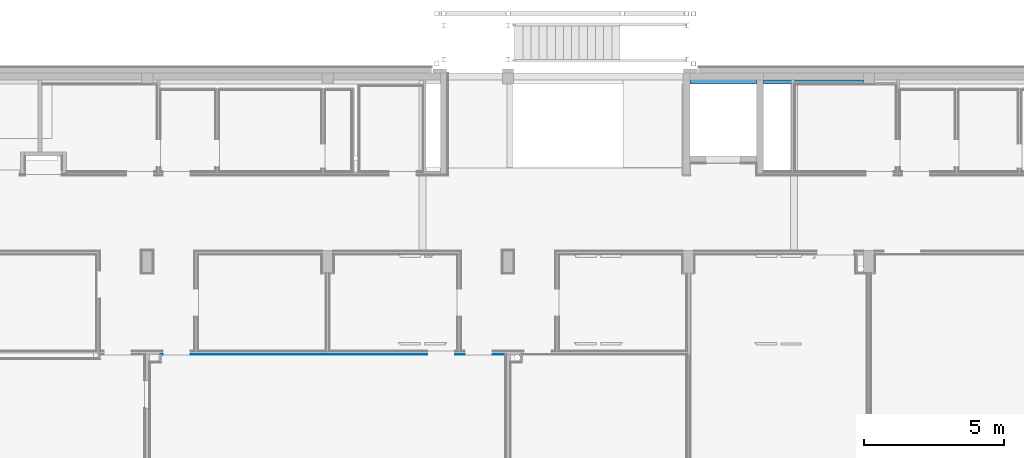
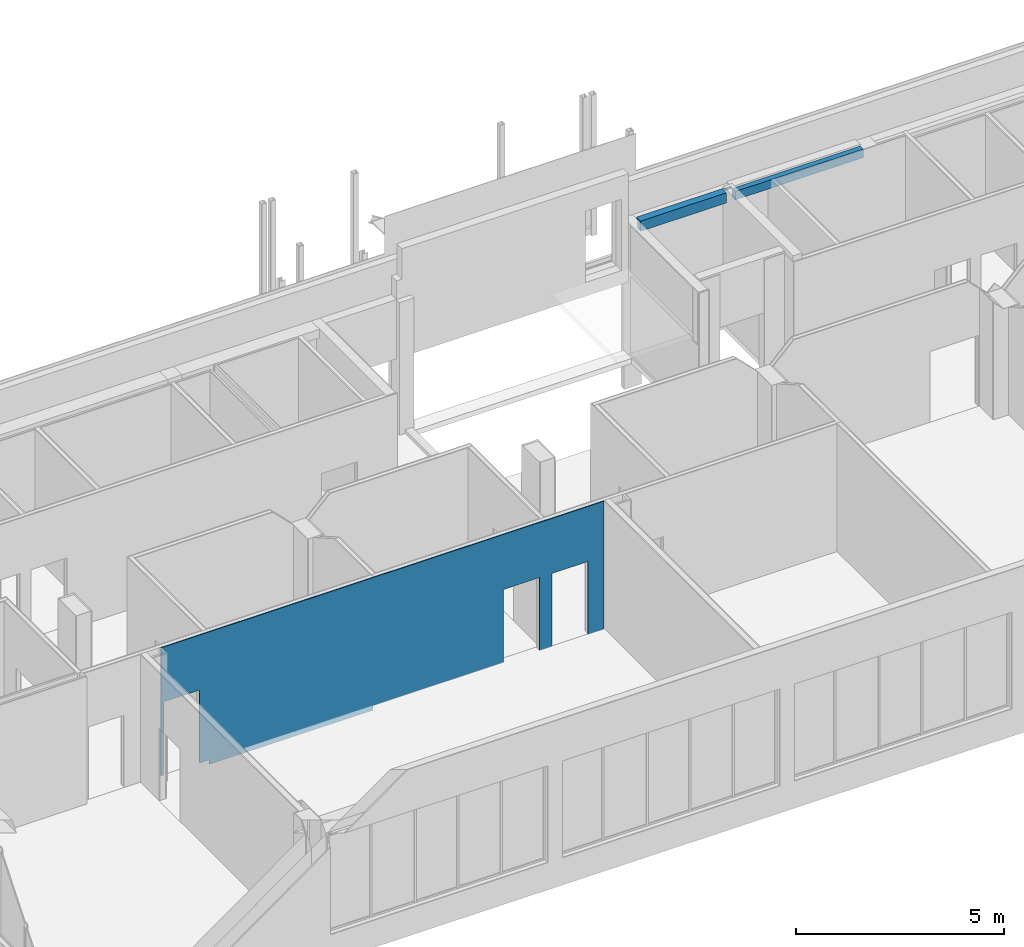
# One storey, part 28 of 29: 1 beam, 1 wall.
"""IFC2X3 building model written with IfcOpenShell, lengths in centimetres."""

import ifcopenshell
import ifcopenshell.guid

model = None  # the IFC model being written
_history = None  # IfcOwnerHistory: only IFC2X3 demands one
_inside = {}  # id of a spatial element -> (the spatial element, [elements in it])
_under = {}  # id of a project, library or spatial element -> (it, [spatial elements below it])
_declared = {}  # id of a project -> (the project, [libraries it declares])
_typed = {}  # id of a type object -> (the type object, [elements of that type])
_made_of = {}  # id of a material, layer set ... -> (it, [elements and type objects made of it])


def new_model(schema):
    """Start an empty IFC model of exactly this schema.

    Asked for "IFC4X3", IfcOpenShell would pick the latest addendum, in which some entities
    have other attributes; the version numbers below select the first issue.
    IFC2X3 requires an IfcOwnerHistory on every rooted entity: one is made here for all.
    """
    global model, _history
    if schema == "IFC4X3":
        model = ifcopenshell.file(schema_version=(4, 3, 0, 0))
    else:
        model = ifcopenshell.file(schema=schema)
    _inside.clear()
    _under.clear()
    _declared.clear()
    _typed.clear()
    _made_of.clear()
    _history = None
    if model.schema == "IFC2X3":
        org = make("IfcOrganization", Name="unknown")
        user = make(
            "IfcPersonAndOrganization",
            ThePerson=make("IfcPerson", FamilyName="unknown"),
            TheOrganization=org,
        )
        app = make(
            "IfcApplication",
            ApplicationDeveloper=org,
            Version="unknown",
            ApplicationFullName="unknown",
            ApplicationIdentifier="unknown",
        )
        _history = make(
            "IfcOwnerHistory",
            OwningUser=user,
            OwningApplication=app,
            ChangeAction="ADDED",
            CreationDate=0,
        )
    return model


def make(cls, **values):
    """One entity of the class cls with the attributes given. An attribute that is None is left unset."""
    return model.create_entity(
        cls, **{name: value for name, value in values.items() if value is not None}
    )


def entity(cls, *values):
    """Any entity or typed value of the class cls, its attributes in the order of the schema. None: left unset."""
    e = model.create_entity(cls)
    for i, value in enumerate(values):
        if value is not None:
            e[i] = value
    return e


def rooted(cls, **values):
    """An entity with a GlobalId (a new one), such as an element, a storey or a relation."""
    return make(cls, GlobalId=ifcopenshell.guid.new(), OwnerHistory=_history, **values)


def si_unit(unit_type, name, prefix=None):
    """IfcSIUnit, for example si_unit("LENGTHUNIT", "METRE", prefix="MILLI")."""
    return make("IfcSIUnit", UnitType=unit_type, Prefix=prefix, Name=name)


def converted_unit(unit_type, name, factor, base, dimensions=None, offset=None):
    """IfcConversionBasedUnit, such as the inch: factor (a typed value) times the base unit."""
    return make(
        "IfcConversionBasedUnit"
        if offset is None
        else "IfcConversionBasedUnitWithOffset",
        ConversionOffset=offset,
        Dimensions=None
        if dimensions is None
        else entity("IfcDimensionalExponents", *dimensions),
        UnitType=unit_type,
        Name=name,
        ConversionFactor=make(
            "IfcMeasureWithUnit", ValueComponent=factor, UnitComponent=base
        ),
    )


def derived_unit(unit_type, elements):
    """IfcDerivedUnit: a product of units, each with its exponent."""
    return make(
        "IfcDerivedUnit",
        Elements=[
            make("IfcDerivedUnitElement", Unit=unit, Exponent=power)
            for unit, power in elements
        ],
        UnitType=unit_type,
    )


def assignment(units):
    """IfcUnitAssignment: the units of a project."""
    return None if units is None else make("IfcUnitAssignment", Units=units)


def point(xyz):
    """IfcCartesianPoint."""
    return None if xyz is None else make("IfcCartesianPoint", Coordinates=xyz)


def direction(xyz):
    """IfcDirection."""
    return None if xyz is None else make("IfcDirection", DirectionRatios=xyz)


def frame(location, z_axis=None, x_axis=None):
    """IfcAxis2Placement3D, a coordinate frame: its origin and axes. An axis left out is left unset."""
    return make(
        "IfcAxis2Placement3D",
        Location=point(location),
        Axis=direction(z_axis),
        RefDirection=direction(x_axis),
    )


def origin():
    """The frame at (0, 0, 0) with its axes left unset."""
    return frame((0.0, 0.0, 0.0))


def place(relative_to, where):
    """IfcLocalPlacement: puts the frame where relative to a parent placement (None: the world)."""
    return make(
        "IfcLocalPlacement", PlacementRelTo=relative_to, RelativePlacement=where
    )


def context(
    kind, dimensions, precision=None, world=None, true_north=None, identifier=None
):
    """IfcGeometricRepresentationContext, for example the 3D "Model" context."""
    return make(
        "IfcGeometricRepresentationContext",
        ContextIdentifier=identifier,
        ContextType=kind,
        CoordinateSpaceDimension=dimensions,
        Precision=precision,
        WorldCoordinateSystem=world,
        TrueNorth=true_north,
    )


def subcontext(parent, identifier, kind, view, scale=None):
    """IfcGeometricRepresentationSubContext, for example "Body" below "Model"."""
    return make(
        "IfcGeometricRepresentationSubContext",
        ContextIdentifier=identifier,
        ContextType=kind,
        ParentContext=parent,
        TargetScale=scale,
        TargetView=view,
    )


def project(units=None, contexts=None):
    """IfcProject with its units and contexts."""
    return rooted(
        "IfcProject",
        Name="project",
        RepresentationContexts=contexts,
        UnitsInContext=assignment(units),
    )


def spatial(cls, under=None, at=None, **own):
    """A site, building, storey or space (cls), placed at a placement, below another one or the project."""
    s = rooted(cls, ObjectPlacement=at, **own)
    if under is not None:
        _under.setdefault(under.id(), (under, []))[1].append(s)
    return s


def faces_of(points, faces, orient=None, outer=None):
    """IfcFace entities. A face is a list of loops; a loop is a list of indices into points, from 0.

    orient and outer hold one flag for each loop. By default every Orientation is true, the
    first loop of a face is its IfcFaceOuterBound and the others are IfcFaceBound.
    """
    made = []
    for i, loops in enumerate(faces):
        bounds = []
        for j, loop in enumerate(loops):
            is_outer = j == 0 if outer is None else outer[i][j]
            bounds.append(
                make(
                    "IfcFaceOuterBound" if is_outer else "IfcFaceBound",
                    Bound=make("IfcPolyLoop", Polygon=[points[k] for k in loop]),
                    Orientation=True if orient is None else orient[i][j],
                )
            )
        made.append(make("IfcFace", Bounds=bounds))
    return made


def faceted_brep(points, faces, orient=None, outer=None, voids=None):
    """IfcFacetedBrep: a solid bounded by flat faces; with voids (closed shells), ...WithVoids."""
    shared = [point(p) for p in points]
    hull = make("IfcClosedShell", CfsFaces=faces_of(shared, faces, orient, outer))
    if voids is None:
        return make("IfcFacetedBrep", Outer=hull)
    return make(
        "IfcFacetedBrepWithVoids",
        Outer=hull,
        Voids=[
            make(cls, CfsFaces=faces_of(shared, fs, o, b)) for cls, fs, o, b in voids
        ],
    )


def shape(context_of_items, identifier, shape_type, items):
    """IfcShapeRepresentation: the items that make up one representation, for example the "Body"."""
    return make(
        "IfcShapeRepresentation",
        ContextOfItems=context_of_items,
        RepresentationIdentifier=identifier,
        RepresentationType=shape_type,
        Items=items,
    )


def source(mapping_origin, context_of_items, identifier, shape_type, items):
    """IfcRepresentationMap: a shape defined once, which mapped items show again and again."""
    return make(
        "IfcRepresentationMap",
        MappingOrigin=mapping_origin,
        MappedRepresentation=shape(context_of_items, identifier, shape_type, items),
    )


def transform(
    local_origin,
    x_axis=None,
    y_axis=None,
    z_axis=None,
    scale=None,
    scale2=None,
    scale3=None,
    uniform=True,
):
    """IfcCartesianTransformationOperator3D, or its non-uniform kind. x_axis, y_axis, z_axis: its Axis1, 2, 3."""
    if uniform:
        return make(
            "IfcCartesianTransformationOperator3D",
            Axis1=direction(x_axis),
            Axis2=direction(y_axis),
            LocalOrigin=point(local_origin),
            Scale=scale,
            Axis3=direction(z_axis),
        )
    return make(
        "IfcCartesianTransformationOperator3DnonUniform",
        Axis1=direction(x_axis),
        Axis2=direction(y_axis),
        LocalOrigin=point(local_origin),
        Scale=scale,
        Axis3=direction(z_axis),
        Scale2=scale2,
        Scale3=scale3,
    )


def mapped(mapping_source, mapping_target):
    """IfcMappedItem: shows the shape of a source again, moved by a transform."""
    return make(
        "IfcMappedItem", MappingSource=mapping_source, MappingTarget=mapping_target
    )


def material(Name=None, Category=None):
    """IfcMaterial."""
    return make("IfcMaterial", Name=Name, Category=Category)


def layer(
    of_material, thickness, ventilated=None, Name=None, Category=None, Priority=None
):
    """IfcMaterialLayer: one layer of a wall or slab, of a material (None: an air gap)."""
    return make(
        "IfcMaterialLayer",
        Material=of_material,
        LayerThickness=thickness,
        IsVentilated=ventilated,
        Name=Name,
        Category=Category,
        Priority=Priority,
    )


def layer_set(layers, Name=None):
    """IfcMaterialLayerSet."""
    return make("IfcMaterialLayerSet", MaterialLayers=layers, LayerSetName=Name)


def made_of(thing, what):
    """Note that an element or type object is made of a material, layer set ...; save() writes the relation."""
    if what is not None:
        _made_of.setdefault(what.id(), (what, []))[1].append(thing)
    return thing


def type_object(cls, material=None, **own):
    """A type object (cls), such as IfcWallType, which elements share."""
    return made_of(rooted(cls, **own), material)


def type_shapes(of_type, sources):
    """Give a type object the sources (RepresentationMaps) that its elements show as mapped items."""
    of_type.RepresentationMaps = sources


def element(
    cls,
    number,
    at=None,
    inside=None,
    cuts=None,
    type_object=None,
    material=None,
    context=None,
    identifier="Body",
    shape_type=None,
    held_by="IfcProductDefinitionShape",
    body=None,
    shapes=None,
    **own,
):
    """One element of the class cls, such as IfcWall. Its Tag is "e" and its number.

    at: its placement. inside: the storey or other place that contains it. cuts: it is an
    opening in that element (IfcRelVoidsElement). A single representation is given by context,
    identifier, shape_type and body (its items); several are given by shapes. held_by: the class
    of the entity that holds the representations. save() writes the other relations.
    """
    e = rooted(cls, Tag="e%d" % number, ObjectPlacement=at, **own)
    if body is not None:
        shapes = [shape(context, identifier, shape_type, body)]
    if shapes is not None:
        e.Representation = make(held_by, Representations=shapes)
    if inside is not None:
        _inside.setdefault(inside.id(), (inside, []))[1].append(e)
    if cuts is not None:
        rooted(
            "IfcRelVoidsElement", RelatingBuildingElement=cuts, RelatedOpeningElement=e
        )
    if type_object is not None:
        _typed.setdefault(type_object.id(), (type_object, []))[1].append(e)
    return made_of(e, material)


def aggregate(whole, parts):
    """IfcRelAggregates: a whole, such as a stair, and the parts it consists of."""
    return rooted("IfcRelAggregates", RelatingObject=whole, RelatedObjects=parts)


def save(model, path):
    """Write the relations noted so far, then the file.

    IfcRelAggregates (storeys below a building ...), IfcRelContainedInSpatialStructure (elements
    in a storey), IfcRelDefinesByType, IfcRelAssociatesMaterial and IfcRelDeclares: one each for
    every whole, place, type object, material and project.
    """
    for whole, parts in _under.values():
        aggregate(whole, parts)
    for where, things in _inside.values():
        rooted(
            "IfcRelContainedInSpatialStructure",
            RelatedElements=things,
            RelatingStructure=where,
        )
    for kind, things in _typed.values():
        rooted("IfcRelDefinesByType", RelatedObjects=things, RelatingType=kind)
    for what, things in _made_of.values():
        rooted("IfcRelAssociatesMaterial", RelatedObjects=things, RelatingMaterial=what)
    for by, libraries in _declared.values():
        rooted("IfcRelDeclares", RelatingContext=by, RelatedDefinitions=libraries)
    model.write(path)


model = new_model("IFC2X3")

# Units and contexts
model_context = context("Model", 3, precision=0.001, world=origin(), true_north=direction((6.12303176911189e-17, 1.0)))
body_context = subcontext(model_context, "Body", "Model", "MODEL_VIEW")
ifc_project = project(units=[si_unit("LENGTHUNIT", "METRE", prefix="CENTI"), si_unit("AREAUNIT", "SQUARE_METRE"), si_unit("VOLUMEUNIT", "CUBIC_METRE"), converted_unit("PLANEANGLEUNIT", "DEGREE", entity("IfcRatioMeasure", 0.0174532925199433), si_unit("PLANEANGLEUNIT", "RADIAN"), dimensions=[0, 0, 0, 0, 0, 0, 0]), si_unit("MASSUNIT", "GRAM", prefix="KILO"), derived_unit("MASSDENSITYUNIT", [(si_unit("MASSUNIT", "GRAM", prefix="KILO"), 1), (si_unit("LENGTHUNIT", "METRE"), -3)]), derived_unit("MOMENTOFINERTIAUNIT", [(si_unit("LENGTHUNIT", "METRE"), 4)]), si_unit("TIMEUNIT", "SECOND"), si_unit("FREQUENCYUNIT", "HERTZ"), si_unit("THERMODYNAMICTEMPERATUREUNIT", "DEGREE_CELSIUS"), derived_unit("THERMALTRANSMITTANCEUNIT", [(si_unit("MASSUNIT", "GRAM", prefix="KILO"), 1), (si_unit("THERMODYNAMICTEMPERATUREUNIT", "KELVIN"), -1), (si_unit("TIMEUNIT", "SECOND"), -3)]), derived_unit("VOLUMETRICFLOWRATEUNIT", [(si_unit("LENGTHUNIT", "METRE"), 3), (si_unit("TIMEUNIT", "SECOND"), -1)]), si_unit("ELECTRICCURRENTUNIT", "AMPERE"), si_unit("ELECTRICVOLTAGEUNIT", "VOLT"), si_unit("POWERUNIT", "WATT"), si_unit("FORCEUNIT", "NEWTON", prefix="KILO"), si_unit("ILLUMINANCEUNIT", "LUX"), si_unit("LUMINOUSFLUXUNIT", "LUMEN"), si_unit("LUMINOUSINTENSITYUNIT", "CANDELA"), derived_unit("USERDEFINED", [(si_unit("MASSUNIT", "GRAM", prefix="KILO"), -1), (si_unit("LENGTHUNIT", "METRE"), -2), (si_unit("TIMEUNIT", "SECOND"), 3), (si_unit("LUMINOUSFLUXUNIT", "LUMEN"), 1)]), derived_unit("LINEARVELOCITYUNIT", [(si_unit("LENGTHUNIT", "METRE"), 1), (si_unit("TIMEUNIT", "SECOND"), -1)]), si_unit("PRESSUREUNIT", "PASCAL"), derived_unit("USERDEFINED", [(si_unit("LENGTHUNIT", "METRE"), -2), (si_unit("MASSUNIT", "GRAM", prefix="KILO"), 1), (si_unit("TIMEUNIT", "SECOND"), -2)]), derived_unit("LINEARFORCEUNIT", [(si_unit("MASSUNIT", "GRAM", prefix="KILO"), 1), (si_unit("LENGTHUNIT", "METRE"), 1), (si_unit("TIMEUNIT", "SECOND"), -2), (si_unit("LENGTHUNIT", "METRE"), -1)]), derived_unit("PLANARFORCEUNIT", [(si_unit("MASSUNIT", "GRAM", prefix="KILO"), 1), (si_unit("LENGTHUNIT", "METRE"), 1), (si_unit("TIMEUNIT", "SECOND"), -2), (si_unit("LENGTHUNIT", "METRE"), -2)])], contexts=[model_context])

# Site, building, storey
site_placement = place(None, origin())
site = spatial("IfcSite", under=ifc_project, at=site_placement, Name="Default", CompositionType="ELEMENT")
building_placement = place(site_placement, origin())
building = spatial("IfcBuilding", under=site, at=building_placement, CompositionType="ELEMENT")
storey_placement = place(building_placement, frame((0.0, 0.0, 545.0)))
storey = spatial("IfcBuildingStorey", under=building, at=storey_placement, Name="Poziom 1K +5,45", CompositionType="ELEMENT", Elevation=544.999999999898)

# Beam
ifc_material_1 = material(Name="_Beton C30/37")
beam_type = type_object("IfcBeamType", Name="Beton-belka prostokątna:BELKA 40x30", PredefinedType="BEAM", material=ifc_material_1)
shared_shape = source(origin(), body_context, "Body", "Brep", [
    faceted_brep([(263.500005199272, 20.0, 30.0), (0.0, 20.0, 30.0), (0.0, 0.0, 30.0), (238.500005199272, 0.0, 30.0), (238.500005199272, 14.9999995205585, 30.0), (263.500005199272, 14.9999995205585, 30.0), (7.65330258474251e-06, 0.0, 0.0), (238.500005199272, 0.0, 0.0), (238.500005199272, 15.0, 0.0), (238.500005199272, 14.9999995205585, 25.0), (0.0, 15.0, 0.0), (7.65330258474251e-06, 15.0, 25.0), (238.500005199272, 15.0, 25.0), (0.0, 20.0, 25.0), (263.500005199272, 20.0, 25.0), (263.500005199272, 14.9999995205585, 25.0), (0.0, 15.0, 25.0), (7.65330258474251e-06, 15.0, 0.0), (238.500005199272, 14.9999995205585, 0.0)], [[[0, 1, 2, 3, 4, 5]], [[6, 7, 3, 2]], [[3, 7, 8, 9, 4]], [[10, 11, 12, 8]], [[13, 14, 15, 12, 16]], [[13, 1, 0, 14]], [[1, 13, 16, 17, 6, 2]], [[14, 0, 5, 15]], [[5, 4, 9, 15]], [[7, 6, 17, 18]]]),
    faceted_brep([(620.000010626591, 0.0, 0.0), (263.500005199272, 0.0, 0.0), (263.500005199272, 15.0, 0.0), (620.000010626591, 15.0, 0.0), (263.500005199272, 14.9999995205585, 25.0), (263.500005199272, 0.0, 25.0), (620.000010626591, 0.0, 25.0), (620.000010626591, 15.0, 25.0), (263.500005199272, 15.0, 25.0)], [[[0, 1, 2, 3]], [[4, 5, 6, 7]], [[5, 8, 2, 1]], [[1, 0, 6, 5]], [[6, 0, 3, 7]], [[3, 2, 8, 7]]]),
])
type_shapes(beam_type, [shared_shape])
beam_placement = place(storey_placement, frame((-329.265119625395, 2065.127452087, 365.0)))
element("IfcBeam", 1, at=beam_placement, inside=storey, type_object=beam_type, material=ifc_material_1, Name="Beton-belka prostokątna:BELKA 40x30", ObjectType="Beton-belka prostokątna:BELKA 40x30", context=body_context, shape_type="MappedRepresentation", body=[
    mapped(shared_shape, transform((0.0, 0.0, 0.0), scale=1.0)),
])

# Wall
ifc_material_2 = material(Name="Tynk gipsowy")
ifc_layer = layer(ifc_material_2, 2.5)
ifc_layer_set = layer_set([ifc_layer], Name="Ściana podstawowa:Ściana GK wykonczenie gr. 2,5cm")
wall_type = type_object("IfcWallType", Name="Ściana podstawowa:Ściana GK wykonczenie gr. 2,5cm", PredefinedType="STANDARD", material=ifc_layer_set)
wall_placement = place(storey_placement, frame((-2221.7651151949, 1098.37745216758, 0.0)))
element("IfcWall", 2, at=wall_placement, inside=storey, type_object=wall_type, Name="Ściana podstawowa:Ściana GK wykonczenie gr. 2,5cm", ObjectType="Ściana podstawowa:Ściana GK wykonczenie gr. 2,5cm", context=body_context, shape_type="Brep", body=[
    faceted_brep([(1232.50000619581, -1.25000000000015, 390.0), (2.49999999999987, -1.25000000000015, 390.0), (0.0, -1.25000000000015, 390.0), (0.0, -1.25000000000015, 13.0), (7.49999999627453, -1.25000000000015, 13.0), (7.49999999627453, -1.25000000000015, 15.0), (7.49999999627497, -1.25000000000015, 228.0), (107.499999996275, -1.25000000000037, 228.0), (107.499999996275, -1.25000000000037, 15.0), (107.499999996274, -1.25000000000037, 13.0), (135.0, -1.25000000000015, 13.0), (135.0, -1.25000000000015, 7.0), (135.0, -1.25000000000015, 0.0), (589.999994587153, -1.25000000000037, 0.0), (589.999994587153, -1.25000000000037, 7.0), (589.999994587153, -1.25000000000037, 13.0), (952.499989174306, -1.25000000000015, 13.0), (952.499989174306, -1.25000000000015, 228.0), (1052.49998917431, -1.25000000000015, 228.0), (1052.49998917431, -1.25000000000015, 13.0), (1087.50000353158, -1.25000000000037, 13.0), (1087.50000353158, -1.25000000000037, 15.0), (1087.50000353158, -1.25000000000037, 228.0), (1187.50000353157, -1.25000000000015, 228.0), (1187.50000353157, -1.25000000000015, 15.0), (1187.50000353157, -1.25000000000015, 13.0), (1232.50000619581, -1.25000000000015, 13.0), (0.0, 1.24999999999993, 390.0), (592.499994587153, 1.24999999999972, 390.0), (1232.50000619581, 1.24999999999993, 390.0), (1232.50000619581, 1.24999999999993, 13.0), (1187.50000353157, 1.24999999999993, 13.0), (1187.50000353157, 1.24999999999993, 15.0), (1187.50000353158, 1.24999999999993, 228.0), (1087.50000353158, 1.24999999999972, 228.0), (1087.50000353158, 1.24999999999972, 15.0), (1087.50000353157, 1.24999999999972, 13.0), (1052.49998917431, 1.24999999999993, 13.0), (1052.49998917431, 1.24999999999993, 228.0), (952.499989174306, 1.24999999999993, 228.0), (952.499989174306, 1.24999999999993, 13.0), (592.499994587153, 1.24999999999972, 13.0), (589.999994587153, 1.24999999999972, 13.0), (589.999994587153, 1.24999999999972, 0.0), (135.0, 1.24999999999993, 0.0), (135.0, 1.24999999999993, 13.0), (107.499999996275, 1.24999999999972, 13.0), (107.499999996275, 1.24999999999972, 15.0), (107.499999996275, 1.24999999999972, 228.0), (7.49999999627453, 1.24999999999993, 228.0), (7.49999999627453, 1.24999999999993, 15.0), (7.49999999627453, 1.24999999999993, 13.0), (0.0, 1.24999999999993, 13.0), (589.999994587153, -1.2500000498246, 13.0)], [[[0, 1, 2, 3, 4, 5, 6, 7, 8, 9, 10, 11, 12, 13, 14, 15, 16, 17, 18, 19, 20, 21, 22, 23, 24, 25, 26]], [[27, 28, 29, 30, 31, 32, 33, 34, 35, 36, 37, 38, 39, 40, 41, 42, 43, 44, 45, 46, 47, 48, 49, 50, 51, 52]], [[13, 12, 44, 43]], [[29, 0, 26, 30]], [[2, 1, 0, 29, 28, 27]], [[2, 27, 52, 3]], [[49, 6, 5, 4, 51, 50]], [[7, 48, 47, 46, 9, 8]], [[49, 48, 7, 6]], [[23, 33, 32, 31, 25, 24]], [[34, 22, 21, 20, 36, 35]], [[23, 22, 34, 33]], [[19, 18, 38, 37]], [[17, 16, 40, 39]], [[18, 17, 39, 38]], [[45, 10, 9, 46]], [[42, 15, 14, 13, 43]], [[10, 45, 44, 12, 11]], [[4, 3, 52, 51]], [[20, 19, 37, 36]], [[26, 25, 31, 30]], [[53, 42, 41, 40, 16]]]),
])

save(model, "model.ifc")
